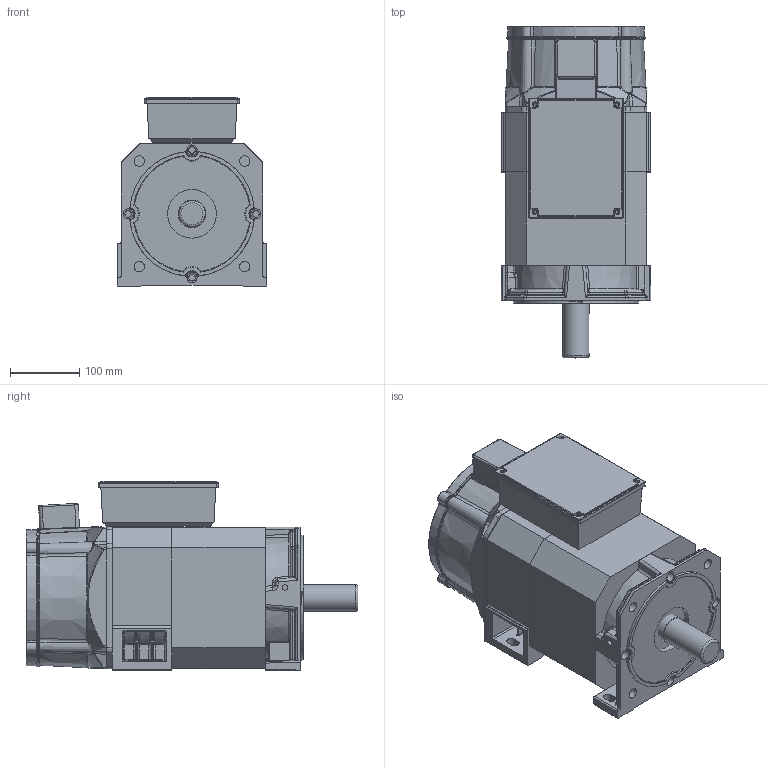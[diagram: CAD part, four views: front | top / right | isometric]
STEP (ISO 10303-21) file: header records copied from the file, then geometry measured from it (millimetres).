
FILE_DESCRIPTION(/* description */ (''),/* implementation_level */ '2;1');
FILE_NAME(/* name */ '204ZJY-4-3.7-15.stp',/* time_stamp */ '2024-01-15T15:28:34+08:00',/* author */ (''),/* organization */ (''),/* preprocessor_version */ 'ST-DEVELOPER v18.1',/* originating_system */ 'SIEMENS PLM Software NX 2000',/* authorisation */ '');
FILE_SCHEMA (('AUTOMOTIVE_DESIGN { 1 0 10303 214 3 1 1 1 }'));
Products named in the file (1): 204ZJY-4-3.7-15电机外形图(立卧通用)
Bounding box: 215.99 x 478 x 273 mm (x, y, z)
Volume: 15587455.1 mm3; surface area: 866990.3 mm2
Topology: 8 solids, 8 shells, 1690 faces, 4112 edges, 2368 vertices
Faces by surface type: cylinder 624, torus 449, plane 300, bspline 223, cone 52, sphere 42
Full cylindrical faces by diameter (mm): 4 x1, 5 x4, 6 x5, 7 x8, 7.5 x4, 8 x2, 9.5 x8, 11 x8, 13.5 x4, 14.5 x4, 15 x4, 38 x1, 39.8 x1, 70 x1, 187 x1
Entity records: 54994 total; most frequent: CARTESIAN_POINT 20005, ORIENTED_EDGE 7824, DIRECTION 6365, EDGE_CURVE 3912, AXIS2_PLACEMENT_3D 2678, VERTEX_POINT 2325, EDGE_LOOP 1861, ADVANCED_FACE 1690
